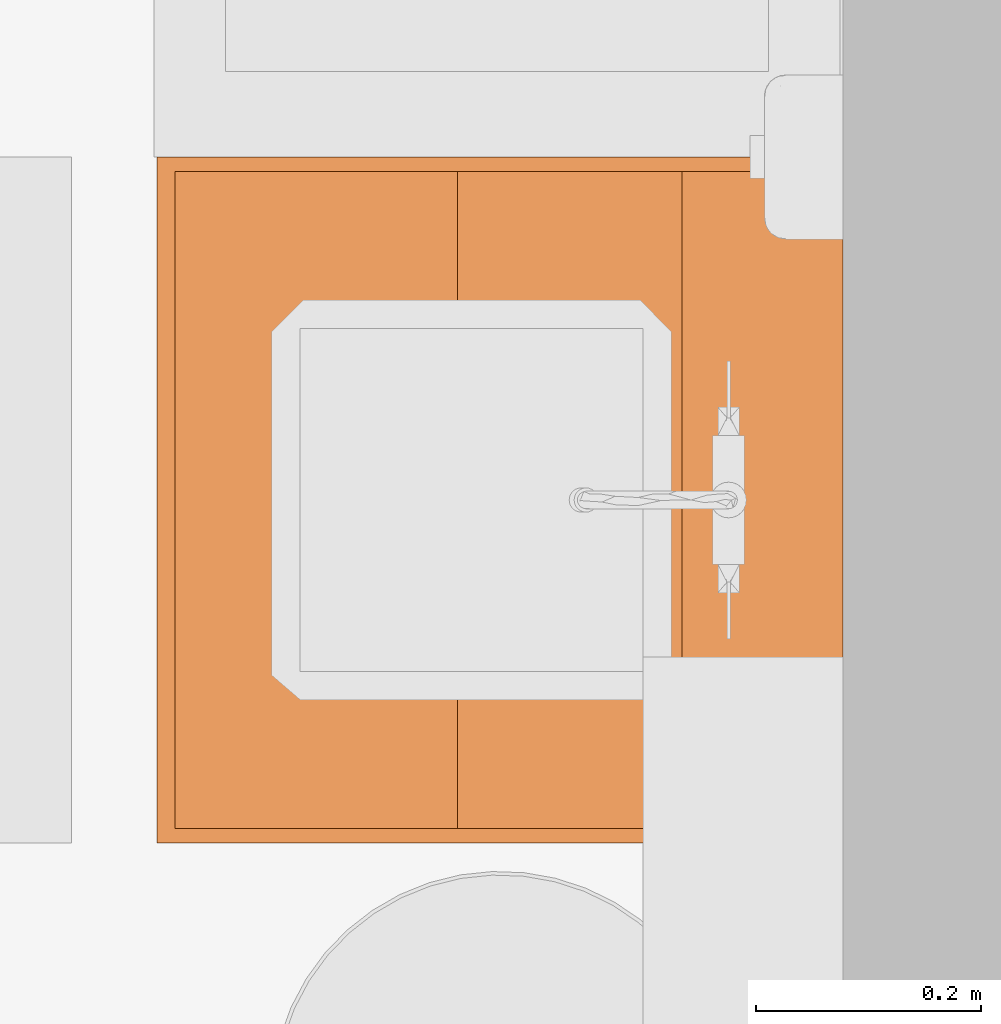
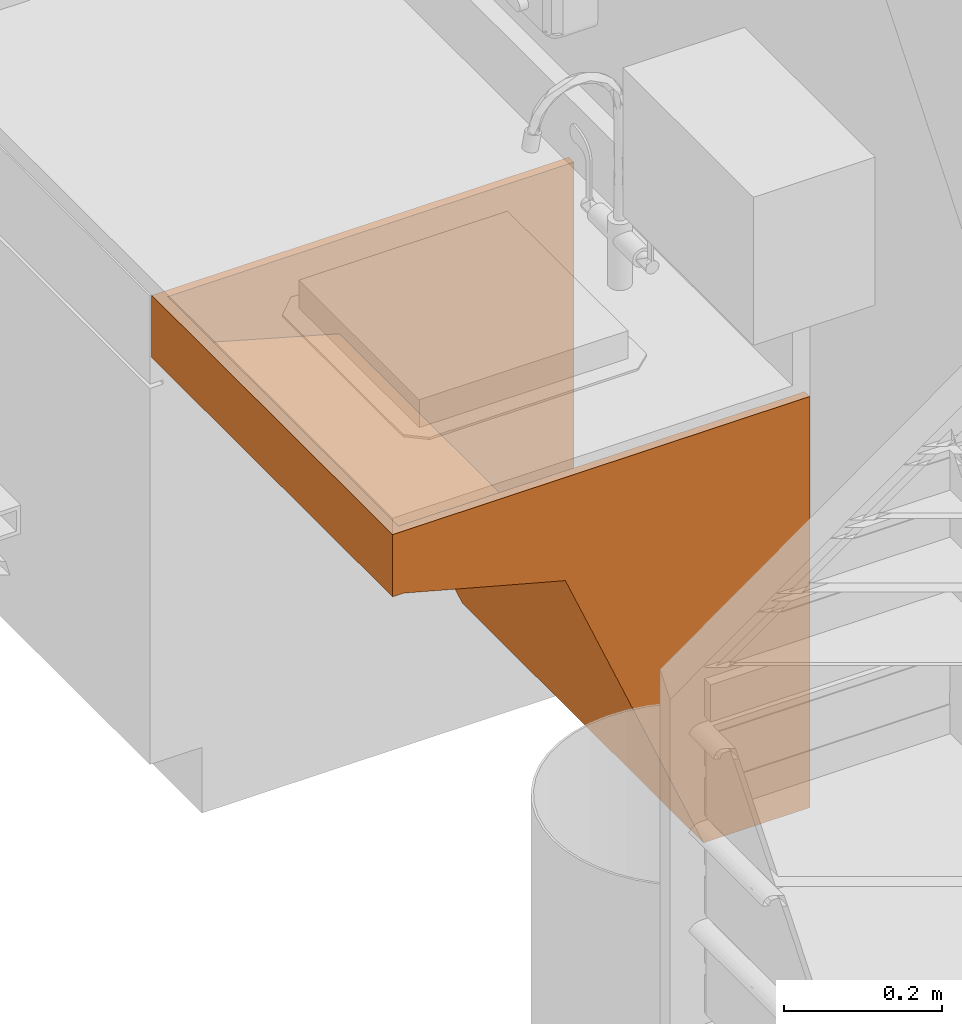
# One storey, part 11 of 142: 1 proxy.
"""IFC2X3 building model written with IfcOpenShell, lengths in feet."""

import ifcopenshell
import ifcopenshell.guid

model = None  # the IFC model being written
_history = None  # IfcOwnerHistory: only IFC2X3 demands one
_inside = {}  # id of a spatial element -> (the spatial element, [elements in it])
_under = {}  # id of a project, library or spatial element -> (it, [spatial elements below it])
_declared = {}  # id of a project -> (the project, [libraries it declares])
_typed = {}  # id of a type object -> (the type object, [elements of that type])
_made_of = {}  # id of a material, layer set ... -> (it, [elements and type objects made of it])


def new_model(schema):
    """Start an empty IFC model of exactly this schema.

    Asked for "IFC4X3", IfcOpenShell would pick the latest addendum, in which some entities
    have other attributes; the version numbers below select the first issue.
    IFC2X3 requires an IfcOwnerHistory on every rooted entity: one is made here for all.
    """
    global model, _history
    if schema == "IFC4X3":
        model = ifcopenshell.file(schema_version=(4, 3, 0, 0))
    else:
        model = ifcopenshell.file(schema=schema)
    _inside.clear()
    _under.clear()
    _declared.clear()
    _typed.clear()
    _made_of.clear()
    _history = None
    if model.schema == "IFC2X3":
        org = make("IfcOrganization", Name="unknown")
        user = make(
            "IfcPersonAndOrganization",
            ThePerson=make("IfcPerson", FamilyName="unknown"),
            TheOrganization=org,
        )
        app = make(
            "IfcApplication",
            ApplicationDeveloper=org,
            Version="unknown",
            ApplicationFullName="unknown",
            ApplicationIdentifier="unknown",
        )
        _history = make(
            "IfcOwnerHistory",
            OwningUser=user,
            OwningApplication=app,
            ChangeAction="ADDED",
            CreationDate=0,
        )
    return model


def make(cls, **values):
    """One entity of the class cls with the attributes given. An attribute that is None is left unset."""
    return model.create_entity(
        cls, **{name: value for name, value in values.items() if value is not None}
    )


def entity(cls, *values):
    """Any entity or typed value of the class cls, its attributes in the order of the schema. None: left unset."""
    e = model.create_entity(cls)
    for i, value in enumerate(values):
        if value is not None:
            e[i] = value
    return e


def rooted(cls, **values):
    """An entity with a GlobalId (a new one), such as an element, a storey or a relation."""
    return make(cls, GlobalId=ifcopenshell.guid.new(), OwnerHistory=_history, **values)


def si_unit(unit_type, name, prefix=None):
    """IfcSIUnit, for example si_unit("LENGTHUNIT", "METRE", prefix="MILLI")."""
    return make("IfcSIUnit", UnitType=unit_type, Prefix=prefix, Name=name)


def converted_unit(unit_type, name, factor, base, dimensions=None, offset=None):
    """IfcConversionBasedUnit, such as the inch: factor (a typed value) times the base unit."""
    return make(
        "IfcConversionBasedUnit"
        if offset is None
        else "IfcConversionBasedUnitWithOffset",
        ConversionOffset=offset,
        Dimensions=None
        if dimensions is None
        else entity("IfcDimensionalExponents", *dimensions),
        UnitType=unit_type,
        Name=name,
        ConversionFactor=make(
            "IfcMeasureWithUnit", ValueComponent=factor, UnitComponent=base
        ),
    )


def derived_unit(unit_type, elements):
    """IfcDerivedUnit: a product of units, each with its exponent."""
    return make(
        "IfcDerivedUnit",
        Elements=[
            make("IfcDerivedUnitElement", Unit=unit, Exponent=power)
            for unit, power in elements
        ],
        UnitType=unit_type,
    )


def assignment(units):
    """IfcUnitAssignment: the units of a project."""
    return None if units is None else make("IfcUnitAssignment", Units=units)


def point(xyz):
    """IfcCartesianPoint."""
    return None if xyz is None else make("IfcCartesianPoint", Coordinates=xyz)


def direction(xyz):
    """IfcDirection."""
    return None if xyz is None else make("IfcDirection", DirectionRatios=xyz)


def frame(location, z_axis=None, x_axis=None):
    """IfcAxis2Placement3D, a coordinate frame: its origin and axes. An axis left out is left unset."""
    return make(
        "IfcAxis2Placement3D",
        Location=point(location),
        Axis=direction(z_axis),
        RefDirection=direction(x_axis),
    )


def frame_2d(location, x_axis=None):
    """IfcAxis2Placement2D, a coordinate frame in the plane: its origin and x axis."""
    return make(
        "IfcAxis2Placement2D", Location=point(location), RefDirection=direction(x_axis)
    )


def origin():
    """The frame at (0, 0, 0) with its axes left unset."""
    return frame((0.0, 0.0, 0.0))


def place(relative_to, where):
    """IfcLocalPlacement: puts the frame where relative to a parent placement (None: the world)."""
    return make(
        "IfcLocalPlacement", PlacementRelTo=relative_to, RelativePlacement=where
    )


def context(
    kind, dimensions, precision=None, world=None, true_north=None, identifier=None
):
    """IfcGeometricRepresentationContext, for example the 3D "Model" context."""
    return make(
        "IfcGeometricRepresentationContext",
        ContextIdentifier=identifier,
        ContextType=kind,
        CoordinateSpaceDimension=dimensions,
        Precision=precision,
        WorldCoordinateSystem=world,
        TrueNorth=true_north,
    )


def subcontext(parent, identifier, kind, view, scale=None):
    """IfcGeometricRepresentationSubContext, for example "Body" below "Model"."""
    return make(
        "IfcGeometricRepresentationSubContext",
        ContextIdentifier=identifier,
        ContextType=kind,
        ParentContext=parent,
        TargetScale=scale,
        TargetView=view,
    )


def project(units=None, contexts=None):
    """IfcProject with its units and contexts."""
    return rooted(
        "IfcProject",
        Name="project",
        RepresentationContexts=contexts,
        UnitsInContext=assignment(units),
    )


def spatial(cls, under=None, at=None, **own):
    """A site, building, storey or space (cls), placed at a placement, below another one or the project."""
    s = rooted(cls, ObjectPlacement=at, **own)
    if under is not None:
        _under.setdefault(under.id(), (under, []))[1].append(s)
    return s


def polyline(points):
    """IfcPolyline through the points."""
    return make("IfcPolyline", Points=[point(p) for p in points])


def profile(cls, at=None, kind="AREA", **sizes):
    """A parametric profile (cls). Its sizes go by their IFC names, for example OverallWidth=200.0."""
    return make(cls, ProfileType=kind, Position=at, **sizes)


def rectangle(**sizes):
    """IfcRectangleProfileDef."""
    return profile("IfcRectangleProfileDef", **sizes)


def outline(outer, holes=None, kind="AREA"):
    """IfcArbitraryClosedProfileDef: a profile drawn as a closed curve; with holes, ...WithVoids."""
    if holes is None:
        return make("IfcArbitraryClosedProfileDef", ProfileType=kind, OuterCurve=outer)
    return make(
        "IfcArbitraryProfileDefWithVoids",
        ProfileType=kind,
        OuterCurve=outer,
        InnerCurves=holes,
    )


def extrude(swept, where, along, depth):
    """IfcExtrudedAreaSolid: the profile swept, set in the frame where, extruded along a direction by depth."""
    return make(
        "IfcExtrudedAreaSolid",
        SweptArea=swept,
        Position=where,
        ExtrudedDirection=direction(along),
        Depth=depth,
    )


def shape(context_of_items, identifier, shape_type, items):
    """IfcShapeRepresentation: the items that make up one representation, for example the "Body"."""
    return make(
        "IfcShapeRepresentation",
        ContextOfItems=context_of_items,
        RepresentationIdentifier=identifier,
        RepresentationType=shape_type,
        Items=items,
    )


def source(mapping_origin, context_of_items, identifier, shape_type, items):
    """IfcRepresentationMap: a shape defined once, which mapped items show again and again."""
    return make(
        "IfcRepresentationMap",
        MappingOrigin=mapping_origin,
        MappedRepresentation=shape(context_of_items, identifier, shape_type, items),
    )


def transform(
    local_origin,
    x_axis=None,
    y_axis=None,
    z_axis=None,
    scale=None,
    scale2=None,
    scale3=None,
    uniform=True,
):
    """IfcCartesianTransformationOperator3D, or its non-uniform kind. x_axis, y_axis, z_axis: its Axis1, 2, 3."""
    if uniform:
        return make(
            "IfcCartesianTransformationOperator3D",
            Axis1=direction(x_axis),
            Axis2=direction(y_axis),
            LocalOrigin=point(local_origin),
            Scale=scale,
            Axis3=direction(z_axis),
        )
    return make(
        "IfcCartesianTransformationOperator3DnonUniform",
        Axis1=direction(x_axis),
        Axis2=direction(y_axis),
        LocalOrigin=point(local_origin),
        Scale=scale,
        Axis3=direction(z_axis),
        Scale2=scale2,
        Scale3=scale3,
    )


def mapped(mapping_source, mapping_target):
    """IfcMappedItem: shows the shape of a source again, moved by a transform."""
    return make(
        "IfcMappedItem", MappingSource=mapping_source, MappingTarget=mapping_target
    )


def made_of(thing, what):
    """Note that an element or type object is made of a material, layer set ...; save() writes the relation."""
    if what is not None:
        _made_of.setdefault(what.id(), (what, []))[1].append(thing)
    return thing


def type_object(cls, material=None, **own):
    """A type object (cls), such as IfcWallType, which elements share."""
    return made_of(rooted(cls, **own), material)


def type_shapes(of_type, sources):
    """Give a type object the sources (RepresentationMaps) that its elements show as mapped items."""
    of_type.RepresentationMaps = sources


def element(
    cls,
    number,
    at=None,
    inside=None,
    cuts=None,
    type_object=None,
    material=None,
    context=None,
    identifier="Body",
    shape_type=None,
    held_by="IfcProductDefinitionShape",
    body=None,
    shapes=None,
    **own,
):
    """One element of the class cls, such as IfcWall. Its Tag is "e" and its number.

    at: its placement. inside: the storey or other place that contains it. cuts: it is an
    opening in that element (IfcRelVoidsElement). A single representation is given by context,
    identifier, shape_type and body (its items); several are given by shapes. held_by: the class
    of the entity that holds the representations. save() writes the other relations.
    """
    e = rooted(cls, Tag="e%d" % number, ObjectPlacement=at, **own)
    if body is not None:
        shapes = [shape(context, identifier, shape_type, body)]
    if shapes is not None:
        e.Representation = make(held_by, Representations=shapes)
    if inside is not None:
        _inside.setdefault(inside.id(), (inside, []))[1].append(e)
    if cuts is not None:
        rooted(
            "IfcRelVoidsElement", RelatingBuildingElement=cuts, RelatedOpeningElement=e
        )
    if type_object is not None:
        _typed.setdefault(type_object.id(), (type_object, []))[1].append(e)
    return made_of(e, material)


def aggregate(whole, parts):
    """IfcRelAggregates: a whole, such as a stair, and the parts it consists of."""
    return rooted("IfcRelAggregates", RelatingObject=whole, RelatedObjects=parts)


def save(model, path):
    """Write the relations noted so far, then the file.

    IfcRelAggregates (storeys below a building ...), IfcRelContainedInSpatialStructure (elements
    in a storey), IfcRelDefinesByType, IfcRelAssociatesMaterial and IfcRelDeclares: one each for
    every whole, place, type object, material and project.
    """
    for whole, parts in _under.values():
        aggregate(whole, parts)
    for where, things in _inside.values():
        rooted(
            "IfcRelContainedInSpatialStructure",
            RelatedElements=things,
            RelatingStructure=where,
        )
    for kind, things in _typed.values():
        rooted("IfcRelDefinesByType", RelatedObjects=things, RelatingType=kind)
    for what, things in _made_of.values():
        rooted("IfcRelAssociatesMaterial", RelatedObjects=things, RelatingMaterial=what)
    for by, libraries in _declared.values():
        rooted("IfcRelDeclares", RelatingContext=by, RelatedDefinitions=libraries)
    model.write(path)


model = new_model("IFC2X3")

# Units and contexts
model_context = context("Model", 3, precision=0.0001, world=origin(), true_north=direction((6.12303176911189e-17, 1.0)))
body_context = subcontext(model_context, "Body", "Model", "MODEL_VIEW")
ifc_project = project(units=[converted_unit("LENGTHUNIT", "FOOT", entity("IfcRatioMeasure", 0.3048), si_unit("LENGTHUNIT", "METRE"), dimensions=[1, 0, 0, 0, 0, 0, 0]), converted_unit("AREAUNIT", "SQUARE FOOT", entity("IfcRatioMeasure", 0.09290304), si_unit("AREAUNIT", "SQUARE_METRE"), dimensions=[2, 0, 0, 0, 0, 0, 0]), converted_unit("VOLUMEUNIT", "CUBIC FOOT", entity("IfcRatioMeasure", 0.028316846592), si_unit("VOLUMEUNIT", "CUBIC_METRE"), dimensions=[3, 0, 0, 0, 0, 0, 0]), converted_unit("PLANEANGLEUNIT", "DEGREE", entity("IfcRatioMeasure", 0.0174532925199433), si_unit("PLANEANGLEUNIT", "RADIAN"), dimensions=[0, 0, 0, 0, 0, 0, 0]), si_unit("MASSUNIT", "GRAM", prefix="KILO"), derived_unit("MASSDENSITYUNIT", [(si_unit("MASSUNIT", "GRAM", prefix="KILO"), 1), (si_unit("LENGTHUNIT", "METRE"), -3)]), si_unit("TIMEUNIT", "SECOND"), si_unit("FREQUENCYUNIT", "HERTZ"), si_unit("THERMODYNAMICTEMPERATUREUNIT", "DEGREE_CELSIUS"), derived_unit("THERMALTRANSMITTANCEUNIT", [(si_unit("MASSUNIT", "GRAM", prefix="KILO"), 1), (si_unit("THERMODYNAMICTEMPERATUREUNIT", "KELVIN"), -1), (si_unit("TIMEUNIT", "SECOND"), -3)]), derived_unit("VOLUMETRICFLOWRATEUNIT", [(si_unit("LENGTHUNIT", "METRE"), 3), (si_unit("TIMEUNIT", "SECOND"), -1)]), si_unit("ELECTRICCURRENTUNIT", "AMPERE"), si_unit("ELECTRICVOLTAGEUNIT", "VOLT"), si_unit("POWERUNIT", "WATT"), si_unit("FORCEUNIT", "NEWTON"), si_unit("ILLUMINANCEUNIT", "LUX"), si_unit("LUMINOUSFLUXUNIT", "LUMEN"), si_unit("LUMINOUSINTENSITYUNIT", "CANDELA"), derived_unit("USERDEFINED", [(si_unit("MASSUNIT", "GRAM", prefix="KILO"), -1), (si_unit("LENGTHUNIT", "METRE"), -2), (si_unit("TIMEUNIT", "SECOND"), 3), (si_unit("LUMINOUSFLUXUNIT", "LUMEN"), 1)]), derived_unit("LINEARVELOCITYUNIT", [(si_unit("LENGTHUNIT", "METRE"), 1), (si_unit("TIMEUNIT", "SECOND"), -1)]), si_unit("PRESSUREUNIT", "PASCAL"), derived_unit("USERDEFINED", [(si_unit("LENGTHUNIT", "METRE"), -2), (si_unit("MASSUNIT", "GRAM", prefix="KILO"), 1), (si_unit("TIMEUNIT", "SECOND"), -2)])], contexts=[model_context])

# Site, building, storey, space
site_placement = place(None, origin())
site = spatial("IfcSite", under=ifc_project, at=site_placement, Name="Default", CompositionType="ELEMENT")
building_placement = place(site_placement, origin())
building = spatial("IfcBuilding", under=site, at=building_placement, Name="OUTPATIENT / PACT CLINIC (Ch. 265)", CompositionType="ELEMENT")
storey_placement = place(building_placement, origin())
storey = spatial("IfcBuildingStorey", under=building, at=storey_placement, Name="LEVEL 1", CompositionType="ELEMENT", Elevation=0.0)
space_placement = place(storey_placement, origin())
space = spatial("IfcSpace", under=storey, at=space_placement, Name="TRPR1", CompositionType="ELEMENT", InteriorOrExteriorSpace="INTERNAL")

# Proxy
building_element_proxy_type = type_object("IfcBuildingElementProxyType", Name="24\"H x 24\"D x 24\"W", PredefinedType="NOTDEFINED")
shared_shape = source(origin(), body_context, "Body", "SweptSolid", [
    extrude(outline(polyline([(-0.750382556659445, 0.0187614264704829), (0.944711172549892, 0.0187614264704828), (1.14381332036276, 0.488200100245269), (1.08627459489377, 0.51260389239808), (0.903330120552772, 0.081261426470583), (-0.774516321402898, 0.0812614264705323), (-1.30874051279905, -0.586799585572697), (-1.24448981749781, -0.614050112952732), (-0.750382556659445, 0.0187614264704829)])), frame((-1.45833333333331, -1.19293570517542, 1.67489402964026), z_axis=(1.0, 0.0, 0.0), x_axis=(0.0, 0.390460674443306, -0.920619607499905)), (0.0, 0.0, 1.0), 1.91666666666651),
    extrude(outline(polyline([(-1.24925608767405, -0.929380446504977), (0.834077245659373, -0.929380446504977), (0.834077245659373, 1.01791116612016), (0.519077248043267, 1.01791116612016), (0.311280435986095, 0.242403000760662), (-1.24925608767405, -0.41946443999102), (-1.24925608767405, -0.929380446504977)])), frame((-1.49999999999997, -1.2262554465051, 2.06175608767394), z_axis=(1.0, 0.0, 0.0), x_axis=(0.0, 0.0, 1.0)), (0.0, 0.0, 1.0), 0.0416666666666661),
    extrude(rectangle(XDim=2.0, YDim=0.0527083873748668, at=frame_2d((-5.55111512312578e-17, -2.22044604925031e-16), x_axis=(1.0, 0.0))), frame((-0.499999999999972, -2.27052080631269, 2.58083333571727), z_axis=(0.0, 0.0, 1.0), x_axis=(-1.0, 0.0, 0.0)), (0.0, 0.0, 1.0), 0.314999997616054),
    extrude(outline(polyline([(-1.24925608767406, -0.929380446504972), (0.834077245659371, -0.929380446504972), (0.834077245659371, 1.01791116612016), (0.519077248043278, 1.01791116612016), (0.311280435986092, 0.24240300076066), (-1.24925608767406, -0.419464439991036), (-1.24925608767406, -0.929380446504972)])), frame((0.458333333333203, -1.22625544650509, 2.06175608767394), z_axis=(1.0, 0.0, 0.0), x_axis=(0.0, 0.0, 1.0)), (0.0, 0.0, 1.0), 0.0416666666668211),
])
type_shapes(building_element_proxy_type, [shared_shape])
proxy_placement = place(space_placement, frame((403.760184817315, -935.545518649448, -0.187499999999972), z_axis=(0.0, 0.0, 1.0), x_axis=(0.0, -1.0, 0.0)))
element("IfcBuildingElementProxy", 1, at=proxy_placement, inside=space, type_object=building_element_proxy_type, Name="Z1018 - Cabinet, ADA Sink Support:24\"H x 24\"D x 24\"W", ObjectType="24\"H x 24\"D x 24\"W", context=body_context, shape_type="MappedRepresentation", body=[
    mapped(shared_shape, transform((0.0, 0.0, 0.0), scale=1.0)),
])

save(model, "model.ifc")
